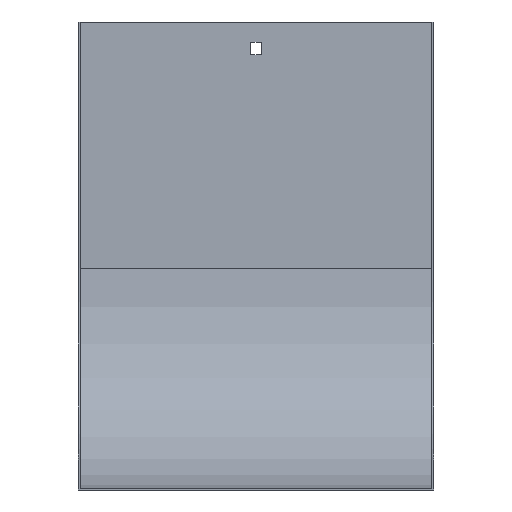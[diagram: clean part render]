
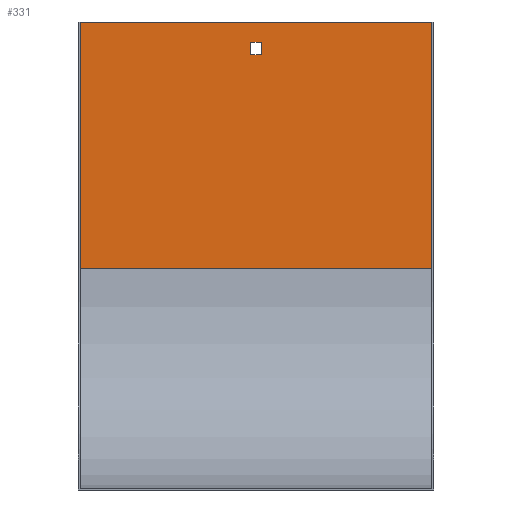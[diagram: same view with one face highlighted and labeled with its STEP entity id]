
A CAD part, front view. The second image highlights one B-rep face of the part: STEP entity #331.
In plain terms, the highlighted planar face has unit normal (0, -1, 0).
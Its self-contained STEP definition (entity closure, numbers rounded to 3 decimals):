
#9 = CARTESIAN_POINT ( 'NONE',  ( 101., -1., 0. ) ) ;
#36 = FACE_BOUND ( 'NONE', #631, .T. ) ;
#39 = EDGE_CURVE ( 'NONE', #248, #636, #623, .T. ) ;
#78 = DIRECTION ( 'NONE',  ( 0., 0., 1. ) ) ;
#81 = DIRECTION ( 'NONE',  ( 0., -1., 0. ) ) ;
#105 = VERTEX_POINT ( 'NONE', #319 ) ;
#124 = ORIENTED_EDGE ( 'NONE', *, *, #258, .F. ) ;
#136 = CARTESIAN_POINT ( 'NONE',  ( 3., -1., -18.5 ) ) ;
#137 = CARTESIAN_POINT ( 'NONE',  ( -100., -1., -140. ) ) ;
#142 = DIRECTION ( 'NONE',  ( -1., 0., 0. ) ) ;
#166 = PLANE ( 'NONE',  #833 ) ;
#209 = CARTESIAN_POINT ( 'NONE',  ( 101., -1., -18.5 ) ) ;
#211 = DIRECTION ( 'NONE',  ( -1., 0., 0. ) ) ;
#218 = CARTESIAN_POINT ( 'NONE',  ( -100., -1., 0. ) ) ;
#221 = VECTOR ( 'NONE', #735, 1000. ) ;
#223 = EDGE_CURVE ( 'NONE', #636, #822, #338, .T. ) ;
#230 = ORIENTED_EDGE ( 'NONE', *, *, #223, .T. ) ;
#239 = FACE_OUTER_BOUND ( 'NONE', #264, .T. ) ;
#248 = VERTEX_POINT ( 'NONE', #666 ) ;
#258 = EDGE_CURVE ( 'NONE', #248, #559, #414, .T. ) ;
#264 = EDGE_LOOP ( 'NONE', ( #373, #124, #690, #230 ) ) ;
#280 = CARTESIAN_POINT ( 'NONE',  ( 101., -1., -11.5 ) ) ;
#290 = EDGE_CURVE ( 'NONE', #559, #822, #594, .T. ) ;
#319 = CARTESIAN_POINT ( 'NONE',  ( -3., -1., -18.5 ) ) ;
#330 = ORIENTED_EDGE ( 'NONE', *, *, #625, .F. ) ;
#331 = ADVANCED_FACE ( 'NONE', ( #36, #239 ), #166, .T. ) ;
#338 = LINE ( 'NONE', #9, #494 ) ;
#340 = VECTOR ( 'NONE', #358, 1000. ) ;
#348 = LINE ( 'NONE', #209, #221 ) ;
#358 = DIRECTION ( 'NONE',  ( 0., 0., -1. ) ) ;
#366 = VECTOR ( 'NONE', #78, 1000. ) ;
#373 = ORIENTED_EDGE ( 'NONE', *, *, #290, .F. ) ;
#375 = CARTESIAN_POINT ( 'NONE',  ( 3., -1., -11.5 ) ) ;
#397 = DIRECTION ( 'NONE',  ( 0., 0., 1. ) ) ;
#399 = VECTOR ( 'NONE', #397, 1000. ) ;
#409 = VECTOR ( 'NONE', #669, 1000. ) ;
#414 = LINE ( 'NONE', #808, #533 ) ;
#421 = ORIENTED_EDGE ( 'NONE', *, *, #685, .F. ) ;
#429 = VERTEX_POINT ( 'NONE', #767 ) ;
#446 = ORIENTED_EDGE ( 'NONE', *, *, #450, .F. ) ;
#450 = EDGE_CURVE ( 'NONE', #612, #770, #516, .T. ) ;
#472 = LINE ( 'NONE', #280, #409 ) ;
#494 = VECTOR ( 'NONE', #211, 1000. ) ;
#500 = CARTESIAN_POINT ( 'NONE',  ( -3., -1., 0. ) ) ;
#514 = CARTESIAN_POINT ( 'NONE',  ( 100., -1., -140. ) ) ;
#516 = LINE ( 'NONE', #644, #399 ) ;
#533 = VECTOR ( 'NONE', #142, 1000. ) ;
#541 = VECTOR ( 'NONE', #821, 1000. ) ;
#557 = ORIENTED_EDGE ( 'NONE', *, *, #786, .F. ) ;
#559 = VERTEX_POINT ( 'NONE', #582 ) ;
#582 = CARTESIAN_POINT ( 'NONE',  ( -100., -1., -140. ) ) ;
#594 = LINE ( 'NONE', #137, #366 ) ;
#612 = VERTEX_POINT ( 'NONE', #136 ) ;
#623 = LINE ( 'NONE', #514, #541 ) ;
#625 = EDGE_CURVE ( 'NONE', #770, #429, #472, .T. ) ;
#631 = EDGE_LOOP ( 'NONE', ( #557, #330, #446, #421 ) ) ;
#636 = VERTEX_POINT ( 'NONE', #727 ) ;
#644 = CARTESIAN_POINT ( 'NONE',  ( 3., -1., 0. ) ) ;
#666 = CARTESIAN_POINT ( 'NONE',  ( 100., -1., -140. ) ) ;
#669 = DIRECTION ( 'NONE',  ( -1., 0., 0. ) ) ;
#684 = CARTESIAN_POINT ( 'NONE',  ( 101., -1., 0. ) ) ;
#685 = EDGE_CURVE ( 'NONE', #105, #612, #348, .T. ) ;
#690 = ORIENTED_EDGE ( 'NONE', *, *, #39, .T. ) ;
#727 = CARTESIAN_POINT ( 'NONE',  ( 100., -1., 0. ) ) ;
#735 = DIRECTION ( 'NONE',  ( 1., 0., 0. ) ) ;
#767 = CARTESIAN_POINT ( 'NONE',  ( -3., -1., -11.5 ) ) ;
#770 = VERTEX_POINT ( 'NONE', #375 ) ;
#786 = EDGE_CURVE ( 'NONE', #429, #105, #809, .T. ) ;
#808 = CARTESIAN_POINT ( 'NONE',  ( 101., -1., -140. ) ) ;
#809 = LINE ( 'NONE', #500, #340 ) ;
#821 = DIRECTION ( 'NONE',  ( 0., 0., 1. ) ) ;
#822 = VERTEX_POINT ( 'NONE', #218 ) ;
#825 = DIRECTION ( 'NONE',  ( 0., 0., -1. ) ) ;
#833 = AXIS2_PLACEMENT_3D ( 'NONE', #684, #81, #825 ) ;
